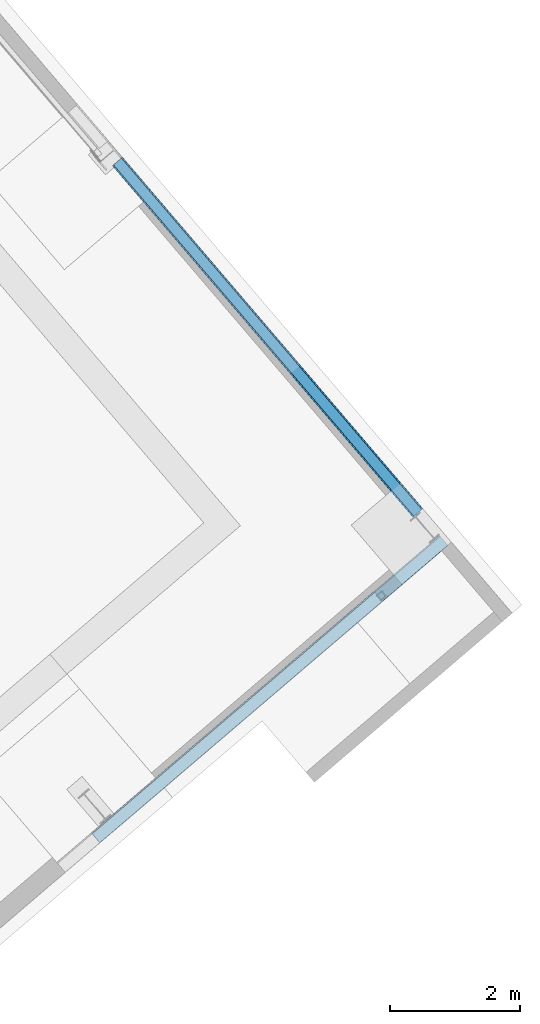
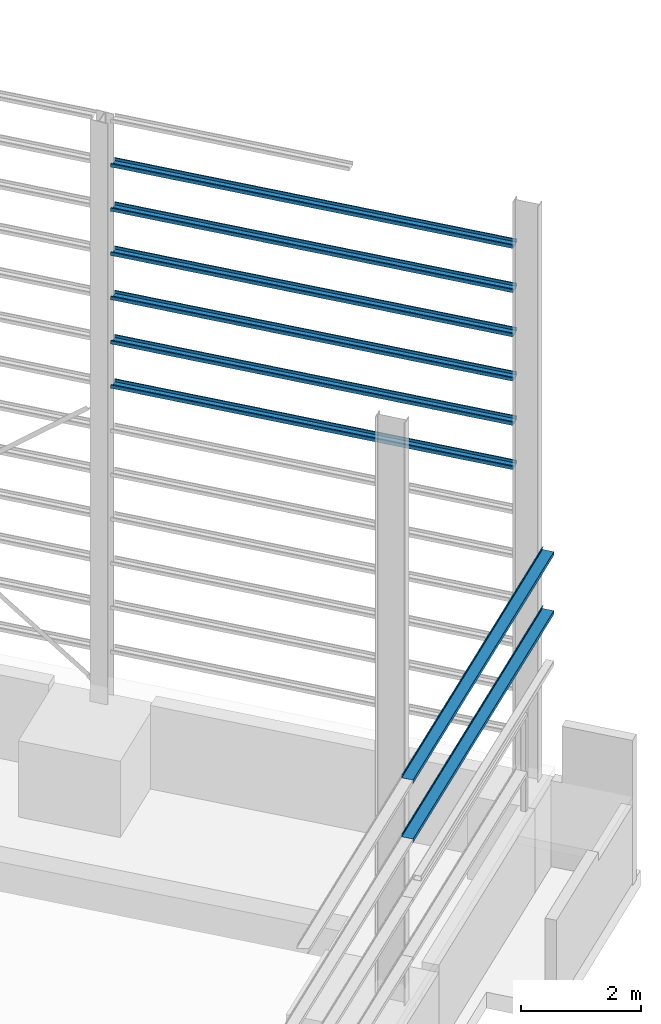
# One storey, part 24 of 41: 6 beams, 2 members, 1 element without a shape of its own.
"""IFC2X3 building model written with IfcOpenShell, lengths in millimetres."""

from ifc_helpers import new_model, entity, si_unit, converted_unit, derived_unit, direction, frame, frame_2d, origin, place, context, subcontext, project, spatial, polyline, circle_curve, parameter, trimmed, segment, composite_curve, outline, extrude, source, transform, mapped, material, type_object, type_shapes, element, aggregate, save


model = new_model("IFC2X3")

# Units and contexts
model_context = context("Model", 3, precision=0.01, world=origin(), true_north=direction((6.123031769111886e-17, 1.0)))
body_context = subcontext(model_context, "Body", "Model", "MODEL_VIEW")
ifc_project = project(units=[si_unit("LENGTHUNIT", "METRE", prefix="MILLI"), si_unit("AREAUNIT", "SQUARE_METRE"), si_unit("VOLUMEUNIT", "CUBIC_METRE"), converted_unit("PLANEANGLEUNIT", "DEGREE", entity("IfcRatioMeasure", 0.017453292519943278), si_unit("PLANEANGLEUNIT", "RADIAN"), dimensions=[0, 0, 0, 0, 0, 0, 0]), si_unit("MASSUNIT", "GRAM", prefix="KILO"), derived_unit("MASSDENSITYUNIT", [(si_unit("MASSUNIT", "GRAM", prefix="KILO"), 1), (si_unit("LENGTHUNIT", "METRE"), -3)]), derived_unit("MOMENTOFINERTIAUNIT", [(si_unit("LENGTHUNIT", "METRE"), 4)]), si_unit("TIMEUNIT", "SECOND"), si_unit("FREQUENCYUNIT", "HERTZ"), si_unit("THERMODYNAMICTEMPERATUREUNIT", "DEGREE_CELSIUS"), derived_unit("THERMALTRANSMITTANCEUNIT", [(si_unit("MASSUNIT", "GRAM", prefix="KILO"), 1), (si_unit("THERMODYNAMICTEMPERATUREUNIT", "KELVIN"), -1), (si_unit("TIMEUNIT", "SECOND"), -3)]), derived_unit("VOLUMETRICFLOWRATEUNIT", [(si_unit("LENGTHUNIT", "METRE"), 3), (si_unit("TIMEUNIT", "SECOND"), -1)]), derived_unit("MASSFLOWRATEUNIT", [(si_unit("MASSUNIT", "GRAM", prefix="KILO"), 1), (si_unit("TIMEUNIT", "SECOND"), -1)]), derived_unit("ROTATIONALFREQUENCYUNIT", [(si_unit("TIMEUNIT", "SECOND"), -1)]), si_unit("ELECTRICCURRENTUNIT", "AMPERE"), si_unit("ELECTRICVOLTAGEUNIT", "VOLT"), si_unit("POWERUNIT", "WATT"), si_unit("FORCEUNIT", "NEWTON", prefix="KILO"), si_unit("ILLUMINANCEUNIT", "LUX"), si_unit("LUMINOUSFLUXUNIT", "LUMEN"), si_unit("LUMINOUSINTENSITYUNIT", "CANDELA"), derived_unit("USERDEFINED", [(si_unit("MASSUNIT", "GRAM", prefix="KILO"), -1), (si_unit("LENGTHUNIT", "METRE"), -2), (si_unit("TIMEUNIT", "SECOND"), 3), (si_unit("LUMINOUSFLUXUNIT", "LUMEN"), 1)]), derived_unit("SOUNDPOWERUNIT", [(si_unit("MASSUNIT", "GRAM", prefix="KILO"), 1), (si_unit("LENGTHUNIT", "METRE"), 2), (si_unit("TIMEUNIT", "SECOND"), -3)]), derived_unit("LINEARVELOCITYUNIT", [(si_unit("LENGTHUNIT", "METRE"), 1), (si_unit("TIMEUNIT", "SECOND"), -1)]), si_unit("PRESSUREUNIT", "PASCAL"), derived_unit("USERDEFINED", [(si_unit("LENGTHUNIT", "METRE"), -2), (si_unit("MASSUNIT", "GRAM", prefix="KILO"), 1), (si_unit("TIMEUNIT", "SECOND"), -2)]), derived_unit("LINEARFORCEUNIT", [(si_unit("MASSUNIT", "GRAM", prefix="KILO"), 1), (si_unit("LENGTHUNIT", "METRE"), 1), (si_unit("TIMEUNIT", "SECOND"), -2), (si_unit("LENGTHUNIT", "METRE"), -1)]), derived_unit("PLANARFORCEUNIT", [(si_unit("MASSUNIT", "GRAM", prefix="KILO"), 1), (si_unit("LENGTHUNIT", "METRE"), 1), (si_unit("TIMEUNIT", "SECOND"), -2), (si_unit("LENGTHUNIT", "METRE"), -2)])], contexts=[model_context])

# Site, building, storey
site_placement = place(None, frame((962.4174930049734, -6014.433753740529, 0.0), z_axis=(0.0, 0.0, 1.0), x_axis=(0.7601792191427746, 0.649713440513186, 0.0)))
site = spatial("IfcSite", under=ifc_project, at=site_placement, Name="Default", CompositionType="ELEMENT")
building_placement = place(site_placement, origin())
building = spatial("IfcBuilding", under=site, at=building_placement, CompositionType="ELEMENT")
storey_placement = place(building_placement, origin())
storey = spatial("IfcBuildingStorey", under=building, at=storey_placement, Name="Datum", CompositionType="ELEMENT", Elevation=0.0)

# Assembly, beams
assembly_placement = place(building_placement, origin())
assembly = element("IfcElementAssembly", 1, at=assembly_placement, inside=storey, Name="Structural Beam System:Structural Beam System 1", ObjectType="Structural Beam System:Structural Beam System 1", AssemblyPlace="NOTDEFINED", PredefinedType="BEAM_GRID")
ifc_material_1 = material(Name="Metal - Light Gauge")
beam_type = type_object("IfcBeamType", Name="ADSK_AUS_Light Gauge-Joists:C20015", PredefinedType="NOTDEFINED")
beam_1_placement = place(building_placement, frame((185748.56020470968, -25672.328082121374, 10513.962485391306), z_axis=(0.0, 0.0, 1.0), x_axis=(0.0, 1.0, 0.0)))
beam_1 = element("IfcBeam", 2, at=beam_1_placement, type_object=beam_type, material=ifc_material_1, Name="ADSK_AUS_Light Gauge-Joists:C20015", ObjectType="ADSK_AUS_Light Gauge-Joists:C20015", context=body_context, shape_type="SweptSolid", body=[
    extrude(outline(composite_curve([segment(polyline([(-25.691849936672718, -101.50000000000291), (39.49184993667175, -101.50000000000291)]), True, "CONTINUOUS"), segment(trimmed(circle_curve(frame_2d((39.49184993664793, -98.8418499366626), x_axis=(0.0, -1.0)), 2.6581500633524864), [parameter(0.0)], [parameter(89.99999999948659)], True, "PARAMETER"), True, "CONTINUOUS"), segment(polyline([(42.15000000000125, -98.8418499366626), (42.15000000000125, 98.84184993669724)]), True, "CONTINUOUS"), segment(trimmed(circle_curve(frame_2d((39.49184993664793, 98.84184993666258), x_axis=(1.0, 0.0)), 2.6581500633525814), [parameter(0.0)], [parameter(89.99999999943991)], True, "PARAMETER"), True, "CONTINUOUS"), segment(polyline([(39.491849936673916, 101.50000000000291), (-25.691849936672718, 101.50000000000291)]), True, "CONTINUOUS"), segment(trimmed(circle_curve(frame_2d((-25.691849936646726, 98.84184993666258), x_axis=(0.0, 1.0)), 2.6581500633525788), [parameter(0.0)], [parameter(89.99999999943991)], True, "PARAMETER"), True, "CONTINUOUS"), segment(polyline([(-28.350000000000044, 98.84184993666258), (-28.350000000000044, 80.0)]), True, "CONTINUOUS"), segment(polyline([(-28.350000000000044, 80.0), (-26.850000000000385, 80.0)]), True, "CONTINUOUS"), segment(polyline([(-26.849999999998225, 80.0), (-26.849999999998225, 98.42934993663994)]), True, "CONTINUOUS"), segment(trimmed(circle_curve(frame_2d((-25.27934993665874, 98.4293499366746), x_axis=(-1.0, 0.0)), 1.5706500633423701), [parameter(270.00000000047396)], [parameter(0.0)], True, "PARAMETER"), False, "CONTINUOUS"), segment(polyline([(-25.27934993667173, 100.0), (39.079349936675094, 100.0)]), True, "CONTINUOUS"), segment(trimmed(circle_curve(frame_2d((39.07934993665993, 98.4293499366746), x_axis=(0.0, 1.0)), 1.5706500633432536), [parameter(270.0000000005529)], [parameter(0.0)], True, "PARAMETER"), False, "CONTINUOUS"), segment(polyline([(40.65000000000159, 98.4293499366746), (40.65000000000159, -98.4293499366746)]), True, "CONTINUOUS"), segment(trimmed(circle_curve(frame_2d((39.07934993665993, -98.4293499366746), x_axis=(1.0, 0.0)), 1.5706500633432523), [parameter(270.0000000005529)], [parameter(0.0)], True, "PARAMETER"), False, "CONTINUOUS"), segment(polyline([(39.079349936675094, -100.0), (-25.27934993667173, -100.0)]), True, "CONTINUOUS"), segment(trimmed(circle_curve(frame_2d((-25.279349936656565, -98.4293499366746), x_axis=(0.0, -1.0)), 1.570650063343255), [parameter(270.0000000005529)], [parameter(0.0)], True, "PARAMETER"), False, "CONTINUOUS"), segment(polyline([(-26.849999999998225, -98.4293499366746), (-26.849999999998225, -80.0)]), True, "CONTINUOUS"), segment(polyline([(-26.849999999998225, -80.0), (-28.349999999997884, -80.0)]), True, "CONTINUOUS"), segment(polyline([(-28.350000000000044, -80.0), (-28.350000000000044, -98.84184993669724)]), True, "CONTINUOUS"), segment(trimmed(circle_curve(frame_2d((-25.6918499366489, -98.8418499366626), x_axis=(-1.0, 0.0)), 2.658150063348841), [parameter(0.0)], [parameter(89.99999999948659)], True, "PARAMETER"), True, "CONTINUOUS")], self_intersect=False)), frame((26.00624999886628, -101.50000000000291, 42.15000000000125), z_axis=(1.0, 0.0, 0.0), x_axis=(0.0, 0.0, -1.0)), (0.0, 0.0, 1.0), 7108.999999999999),
])
beam_2_placement = place(building_placement, frame((185748.56020470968, -25672.328082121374, 9613.962485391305), z_axis=(0.0, 0.0, 1.0), x_axis=(0.0, 1.0, 0.0)))
beam_2 = element("IfcBeam", 3, at=beam_2_placement, type_object=beam_type, material=ifc_material_1, Name="ADSK_AUS_Light Gauge-Joists:C20015", ObjectType="ADSK_AUS_Light Gauge-Joists:C20015", context=body_context, shape_type="SweptSolid", body=[
    extrude(outline(composite_curve([segment(polyline([(-25.691849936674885, -101.50000000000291), (39.49184993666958, -101.50000000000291)]), True, "CONTINUOUS"), segment(trimmed(circle_curve(frame_2d((39.491849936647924, -98.8418499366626), x_axis=(0.0, -1.0)), 2.658150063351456), [parameter(0.0)], [parameter(89.99999999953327)], True, "PARAMETER"), True, "CONTINUOUS"), segment(polyline([(42.14999999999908, -98.8418499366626), (42.149999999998, 98.84184993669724)]), True, "CONTINUOUS"), segment(trimmed(circle_curve(frame_2d((39.491849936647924, 98.84184993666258), x_axis=(1.0, 0.0)), 2.658150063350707), [parameter(0.0)], [parameter(89.99999999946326)], True, "PARAMETER"), True, "CONTINUOUS"), segment(polyline([(39.491849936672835, 101.50000000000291), (-25.691849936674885, 101.50000000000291)]), True, "CONTINUOUS"), segment(trimmed(circle_curve(frame_2d((-25.691849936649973, 98.84184993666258), x_axis=(0.0, 1.0)), 2.658150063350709), [parameter(0.0)], [parameter(89.99999999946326)], True, "PARAMETER"), True, "CONTINUOUS"), segment(polyline([(-28.35000000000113, 98.84184993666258), (-28.35000000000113, 80.0)]), True, "CONTINUOUS"), segment(polyline([(-28.35000000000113, 80.0), (-26.850000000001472, 80.0)]), True, "CONTINUOUS"), segment(polyline([(-26.850000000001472, 80.0), (-26.850000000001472, 98.42934993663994)]), True, "CONTINUOUS"), segment(trimmed(circle_curve(frame_2d((-25.279349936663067, 98.4293499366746), x_axis=(-1.0, 0.0)), 1.570650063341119), [parameter(270.00000000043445)], [parameter(0.0)], True, "PARAMETER"), False, "CONTINUOUS"), segment(polyline([(-25.279349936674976, 100.0), (39.079349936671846, 100.0)]), True, "CONTINUOUS"), segment(trimmed(circle_curve(frame_2d((39.07934993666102, 98.4293499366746), x_axis=(0.0, 1.0)), 1.570650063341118), [parameter(270.00000000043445)], [parameter(0.0)], True, "PARAMETER"), False, "CONTINUOUS"), segment(polyline([(40.64999999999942, 98.4293499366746), (40.6500000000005, -98.4293499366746)]), True, "CONTINUOUS"), segment(trimmed(circle_curve(frame_2d((39.07934993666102, -98.4293499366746), x_axis=(1.0, 0.0)), 1.570650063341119), [parameter(270.00000000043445)], [parameter(0.0)], True, "PARAMETER"), False, "CONTINUOUS"), segment(polyline([(39.079349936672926, -100.0), (-25.279349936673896, -100.0)]), True, "CONTINUOUS"), segment(trimmed(circle_curve(frame_2d((-25.279349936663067, -98.4293499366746), x_axis=(0.0, -1.0)), 1.570650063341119), [parameter(270.00000000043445)], [parameter(0.0)], True, "PARAMETER"), False, "CONTINUOUS"), segment(polyline([(-26.850000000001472, -98.4293499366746), (-26.850000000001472, -80.0)]), True, "CONTINUOUS"), segment(polyline([(-26.850000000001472, -80.0), (-28.35000000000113, -80.0)]), True, "CONTINUOUS"), segment(polyline([(-28.35000000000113, -80.0), (-28.35000000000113, -98.84184993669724)]), True, "CONTINUOUS"), segment(trimmed(circle_curve(frame_2d((-25.691849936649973, -98.8418499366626), x_axis=(-1.0, 0.0)), 2.6581500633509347), [parameter(0.0)], [parameter(89.99999999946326)], True, "PARAMETER"), True, "CONTINUOUS")], self_intersect=False)), frame((26.00624999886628, -101.50000000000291, 42.14999999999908), z_axis=(1.0, 0.0, 0.0), x_axis=(0.0, 0.0, -1.0)), (0.0, 0.0, 1.0), 7108.999999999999),
])
beam_3_placement = place(building_placement, frame((185748.56020470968, -25672.328082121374, 8713.962485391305), z_axis=(0.0, 0.0, 1.0), x_axis=(0.0, 1.0, 0.0)))
beam_3 = element("IfcBeam", 4, at=beam_3_placement, type_object=beam_type, material=ifc_material_1, Name="ADSK_AUS_Light Gauge-Joists:C20015", ObjectType="ADSK_AUS_Light Gauge-Joists:C20015", context=body_context, shape_type="SweptSolid", body=[
    extrude(outline(composite_curve([segment(polyline([(-25.691849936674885, -101.50000000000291), (39.49184993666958, -101.50000000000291)]), True, "CONTINUOUS"), segment(trimmed(circle_curve(frame_2d((39.491849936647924, -98.8418499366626), x_axis=(0.0, -1.0)), 2.658150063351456), [parameter(0.0)], [parameter(89.99999999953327)], True, "PARAMETER"), True, "CONTINUOUS"), segment(polyline([(42.14999999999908, -98.8418499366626), (42.149999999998, 98.84184993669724)]), True, "CONTINUOUS"), segment(trimmed(circle_curve(frame_2d((39.491849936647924, 98.84184993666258), x_axis=(1.0, 0.0)), 2.658150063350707), [parameter(0.0)], [parameter(89.99999999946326)], True, "PARAMETER"), True, "CONTINUOUS"), segment(polyline([(39.491849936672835, 101.50000000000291), (-25.691849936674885, 101.50000000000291)]), True, "CONTINUOUS"), segment(trimmed(circle_curve(frame_2d((-25.691849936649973, 98.84184993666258), x_axis=(0.0, 1.0)), 2.658150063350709), [parameter(0.0)], [parameter(89.99999999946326)], True, "PARAMETER"), True, "CONTINUOUS"), segment(polyline([(-28.35000000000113, 98.84184993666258), (-28.35000000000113, 80.0)]), True, "CONTINUOUS"), segment(polyline([(-28.35000000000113, 80.0), (-26.850000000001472, 80.0)]), True, "CONTINUOUS"), segment(polyline([(-26.850000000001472, 80.0), (-26.850000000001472, 98.42934993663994)]), True, "CONTINUOUS"), segment(trimmed(circle_curve(frame_2d((-25.279349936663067, 98.4293499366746), x_axis=(-1.0, 0.0)), 1.570650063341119), [parameter(270.00000000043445)], [parameter(0.0)], True, "PARAMETER"), False, "CONTINUOUS"), segment(polyline([(-25.279349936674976, 100.0), (39.079349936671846, 100.0)]), True, "CONTINUOUS"), segment(trimmed(circle_curve(frame_2d((39.07934993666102, 98.4293499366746), x_axis=(0.0, 1.0)), 1.570650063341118), [parameter(270.00000000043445)], [parameter(0.0)], True, "PARAMETER"), False, "CONTINUOUS"), segment(polyline([(40.64999999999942, 98.4293499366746), (40.6500000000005, -98.4293499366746)]), True, "CONTINUOUS"), segment(trimmed(circle_curve(frame_2d((39.07934993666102, -98.4293499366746), x_axis=(1.0, 0.0)), 1.570650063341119), [parameter(270.00000000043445)], [parameter(0.0)], True, "PARAMETER"), False, "CONTINUOUS"), segment(polyline([(39.079349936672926, -100.0), (-25.279349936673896, -100.0)]), True, "CONTINUOUS"), segment(trimmed(circle_curve(frame_2d((-25.279349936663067, -98.4293499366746), x_axis=(0.0, -1.0)), 1.570650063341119), [parameter(270.00000000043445)], [parameter(0.0)], True, "PARAMETER"), False, "CONTINUOUS"), segment(polyline([(-26.850000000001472, -98.4293499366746), (-26.850000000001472, -80.0)]), True, "CONTINUOUS"), segment(polyline([(-26.850000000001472, -80.0), (-28.35000000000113, -80.0)]), True, "CONTINUOUS"), segment(polyline([(-28.35000000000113, -80.0), (-28.35000000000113, -98.84184993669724)]), True, "CONTINUOUS"), segment(trimmed(circle_curve(frame_2d((-25.691849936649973, -98.8418499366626), x_axis=(-1.0, 0.0)), 2.6581500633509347), [parameter(0.0)], [parameter(89.99999999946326)], True, "PARAMETER"), True, "CONTINUOUS")], self_intersect=False)), frame((26.00624999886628, -101.50000000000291, 42.14999999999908), z_axis=(1.0, 0.0, 0.0), x_axis=(0.0, 0.0, -1.0)), (0.0, 0.0, 1.0), 7108.999999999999),
])
beam_4_placement = place(building_placement, frame((185748.56020470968, -25672.328082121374, 7813.962485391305), z_axis=(0.0, 0.0, 1.0), x_axis=(0.0, 1.0, 0.0)))
beam_4 = element("IfcBeam", 5, at=beam_4_placement, type_object=beam_type, material=ifc_material_1, Name="ADSK_AUS_Light Gauge-Joists:C20015", ObjectType="ADSK_AUS_Light Gauge-Joists:C20015", context=body_context, shape_type="SweptSolid", body=[
    extrude(outline(composite_curve([segment(polyline([(-25.691849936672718, -101.50000000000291), (39.49184993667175, -101.50000000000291)]), True, "CONTINUOUS"), segment(trimmed(circle_curve(frame_2d((39.49184993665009, -98.8418499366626), x_axis=(0.0, -1.0)), 2.658150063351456), [parameter(0.0)], [parameter(89.99999999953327)], True, "PARAMETER"), True, "CONTINUOUS"), segment(polyline([(42.15000000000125, -98.8418499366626), (42.15000000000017, 98.84184993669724)]), True, "CONTINUOUS"), segment(trimmed(circle_curve(frame_2d((39.49184993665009, 98.84184993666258), x_axis=(1.0, 0.0)), 2.658150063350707), [parameter(0.0)], [parameter(89.99999999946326)], True, "PARAMETER"), True, "CONTINUOUS"), segment(polyline([(39.491849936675, 101.50000000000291), (-25.691849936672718, 101.50000000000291)]), True, "CONTINUOUS"), segment(trimmed(circle_curve(frame_2d((-25.691849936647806, 98.84184993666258), x_axis=(0.0, 1.0)), 2.658150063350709), [parameter(0.0)], [parameter(89.99999999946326)], True, "PARAMETER"), True, "CONTINUOUS"), segment(polyline([(-28.349999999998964, 98.84184993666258), (-28.349999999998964, 80.0)]), True, "CONTINUOUS"), segment(polyline([(-28.349999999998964, 80.0), (-26.849999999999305, 80.0)]), True, "CONTINUOUS"), segment(polyline([(-26.849999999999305, 80.0), (-26.849999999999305, 98.42934993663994)]), True, "CONTINUOUS"), segment(trimmed(circle_curve(frame_2d((-25.2793499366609, 98.4293499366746), x_axis=(-1.0, 0.0)), 1.570650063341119), [parameter(270.00000000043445)], [parameter(0.0)], True, "PARAMETER"), False, "CONTINUOUS"), segment(polyline([(-25.27934993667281, 100.0), (39.079349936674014, 100.0)]), True, "CONTINUOUS"), segment(trimmed(circle_curve(frame_2d((39.079349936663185, 98.4293499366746), x_axis=(0.0, 1.0)), 1.570650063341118), [parameter(270.00000000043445)], [parameter(0.0)], True, "PARAMETER"), False, "CONTINUOUS"), segment(polyline([(40.65000000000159, 98.4293499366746), (40.65000000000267, -98.4293499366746)]), True, "CONTINUOUS"), segment(trimmed(circle_curve(frame_2d((39.079349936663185, -98.4293499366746), x_axis=(1.0, 0.0)), 1.570650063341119), [parameter(270.00000000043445)], [parameter(0.0)], True, "PARAMETER"), False, "CONTINUOUS"), segment(polyline([(39.079349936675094, -100.0), (-25.27934993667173, -100.0)]), True, "CONTINUOUS"), segment(trimmed(circle_curve(frame_2d((-25.2793499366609, -98.4293499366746), x_axis=(0.0, -1.0)), 1.570650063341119), [parameter(270.00000000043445)], [parameter(0.0)], True, "PARAMETER"), False, "CONTINUOUS"), segment(polyline([(-26.849999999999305, -98.4293499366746), (-26.849999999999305, -80.0)]), True, "CONTINUOUS"), segment(polyline([(-26.849999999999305, -80.0), (-28.349999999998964, -80.0)]), True, "CONTINUOUS"), segment(polyline([(-28.349999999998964, -80.0), (-28.349999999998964, -98.84184993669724)]), True, "CONTINUOUS"), segment(trimmed(circle_curve(frame_2d((-25.691849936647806, -98.8418499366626), x_axis=(-1.0, 0.0)), 2.6581500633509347), [parameter(0.0)], [parameter(89.99999999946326)], True, "PARAMETER"), True, "CONTINUOUS")], self_intersect=False)), frame((26.00624999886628, -101.50000000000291, 42.15000000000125), z_axis=(1.0, 0.0, 0.0), x_axis=(0.0, 0.0, -1.0)), (0.0, 0.0, 1.0), 7108.999999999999),
])
beam_5_placement = place(building_placement, frame((185748.56020470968, -25672.328082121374, 6913.962485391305), z_axis=(0.0, 0.0, 1.0), x_axis=(0.0, 1.0, 0.0)))
beam_5 = element("IfcBeam", 6, at=beam_5_placement, type_object=beam_type, material=ifc_material_1, Name="ADSK_AUS_Light Gauge-Joists:C20015", ObjectType="ADSK_AUS_Light Gauge-Joists:C20015", context=body_context, shape_type="SweptSolid", body=[
    extrude(outline(composite_curve([segment(polyline([(-25.691849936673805, -101.50000000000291), (39.49184993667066, -101.50000000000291)]), True, "CONTINUOUS"), segment(trimmed(circle_curve(frame_2d((39.491849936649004, -98.8418499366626), x_axis=(0.0, -1.0)), 2.658150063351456), [parameter(0.0)], [parameter(89.99999999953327)], True, "PARAMETER"), True, "CONTINUOUS"), segment(polyline([(42.15000000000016, -98.8418499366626), (42.14999999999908, 98.84184993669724)]), True, "CONTINUOUS"), segment(trimmed(circle_curve(frame_2d((39.491849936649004, 98.84184993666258), x_axis=(1.0, 0.0)), 2.658150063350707), [parameter(0.0)], [parameter(89.99999999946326)], True, "PARAMETER"), True, "CONTINUOUS"), segment(polyline([(39.491849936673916, 101.50000000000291), (-25.691849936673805, 101.50000000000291)]), True, "CONTINUOUS"), segment(trimmed(circle_curve(frame_2d((-25.691849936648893, 98.84184993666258), x_axis=(0.0, 1.0)), 2.658150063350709), [parameter(0.0)], [parameter(89.99999999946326)], True, "PARAMETER"), True, "CONTINUOUS"), segment(polyline([(-28.35000000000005, 98.84184993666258), (-28.35000000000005, 80.0)]), True, "CONTINUOUS"), segment(polyline([(-28.35000000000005, 80.0), (-26.850000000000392, 80.0)]), True, "CONTINUOUS"), segment(polyline([(-26.850000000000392, 80.0), (-26.850000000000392, 98.42934993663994)]), True, "CONTINUOUS"), segment(trimmed(circle_curve(frame_2d((-25.279349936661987, 98.4293499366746), x_axis=(-1.0, 0.0)), 1.570650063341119), [parameter(270.00000000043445)], [parameter(0.0)], True, "PARAMETER"), False, "CONTINUOUS"), segment(polyline([(-25.279349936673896, 100.0), (39.079349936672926, 100.0)]), True, "CONTINUOUS"), segment(trimmed(circle_curve(frame_2d((39.0793499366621, 98.4293499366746), x_axis=(0.0, 1.0)), 1.570650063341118), [parameter(270.00000000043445)], [parameter(0.0)], True, "PARAMETER"), False, "CONTINUOUS"), segment(polyline([(40.6500000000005, 98.4293499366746), (40.65000000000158, -98.4293499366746)]), True, "CONTINUOUS"), segment(trimmed(circle_curve(frame_2d((39.0793499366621, -98.4293499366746), x_axis=(1.0, 0.0)), 1.570650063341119), [parameter(270.00000000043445)], [parameter(0.0)], True, "PARAMETER"), False, "CONTINUOUS"), segment(polyline([(39.07934993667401, -100.0), (-25.279349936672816, -100.0)]), True, "CONTINUOUS"), segment(trimmed(circle_curve(frame_2d((-25.279349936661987, -98.4293499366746), x_axis=(0.0, -1.0)), 1.570650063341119), [parameter(270.00000000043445)], [parameter(0.0)], True, "PARAMETER"), False, "CONTINUOUS"), segment(polyline([(-26.850000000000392, -98.4293499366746), (-26.850000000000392, -80.0)]), True, "CONTINUOUS"), segment(polyline([(-26.850000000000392, -80.0), (-28.35000000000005, -80.0)]), True, "CONTINUOUS"), segment(polyline([(-28.35000000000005, -80.0), (-28.35000000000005, -98.84184993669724)]), True, "CONTINUOUS"), segment(trimmed(circle_curve(frame_2d((-25.691849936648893, -98.8418499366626), x_axis=(-1.0, 0.0)), 2.6581500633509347), [parameter(0.0)], [parameter(89.99999999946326)], True, "PARAMETER"), True, "CONTINUOUS")], self_intersect=False)), frame((26.00624999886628, -101.50000000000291, 42.15000000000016), z_axis=(1.0, 0.0, 0.0), x_axis=(0.0, 0.0, -1.0)), (0.0, 0.0, 1.0), 7108.999999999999),
])
beam_6_placement = place(building_placement, frame((185748.56020470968, -25672.328082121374, 6013.962485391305), z_axis=(0.0, 0.0, 1.0), x_axis=(0.0, 1.0, 0.0)))
beam_6 = element("IfcBeam", 7, at=beam_6_placement, type_object=beam_type, material=ifc_material_1, Name="ADSK_AUS_Light Gauge-Joists:C20015", ObjectType="ADSK_AUS_Light Gauge-Joists:C20015", context=body_context, shape_type="SweptSolid", body=[
    extrude(outline(composite_curve([segment(polyline([(-25.691849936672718, -101.50000000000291), (39.49184993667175, -101.50000000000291)]), True, "CONTINUOUS"), segment(trimmed(circle_curve(frame_2d((39.49184993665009, -98.8418499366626), x_axis=(0.0, -1.0)), 2.658150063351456), [parameter(0.0)], [parameter(89.99999999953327)], True, "PARAMETER"), True, "CONTINUOUS"), segment(polyline([(42.15000000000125, -98.8418499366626), (42.15000000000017, 98.84184993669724)]), True, "CONTINUOUS"), segment(trimmed(circle_curve(frame_2d((39.49184993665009, 98.84184993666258), x_axis=(1.0, 0.0)), 2.658150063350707), [parameter(0.0)], [parameter(89.99999999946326)], True, "PARAMETER"), True, "CONTINUOUS"), segment(polyline([(39.491849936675, 101.50000000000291), (-25.691849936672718, 101.50000000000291)]), True, "CONTINUOUS"), segment(trimmed(circle_curve(frame_2d((-25.691849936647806, 98.84184993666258), x_axis=(0.0, 1.0)), 2.658150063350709), [parameter(0.0)], [parameter(89.99999999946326)], True, "PARAMETER"), True, "CONTINUOUS"), segment(polyline([(-28.349999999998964, 98.84184993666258), (-28.349999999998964, 80.0)]), True, "CONTINUOUS"), segment(polyline([(-28.349999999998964, 80.0), (-26.849999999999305, 80.0)]), True, "CONTINUOUS"), segment(polyline([(-26.849999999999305, 80.0), (-26.849999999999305, 98.42934993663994)]), True, "CONTINUOUS"), segment(trimmed(circle_curve(frame_2d((-25.2793499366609, 98.4293499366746), x_axis=(-1.0, 0.0)), 1.570650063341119), [parameter(270.00000000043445)], [parameter(0.0)], True, "PARAMETER"), False, "CONTINUOUS"), segment(polyline([(-25.27934993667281, 100.0), (39.079349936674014, 100.0)]), True, "CONTINUOUS"), segment(trimmed(circle_curve(frame_2d((39.079349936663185, 98.4293499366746), x_axis=(0.0, 1.0)), 1.570650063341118), [parameter(270.00000000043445)], [parameter(0.0)], True, "PARAMETER"), False, "CONTINUOUS"), segment(polyline([(40.65000000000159, 98.4293499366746), (40.65000000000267, -98.4293499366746)]), True, "CONTINUOUS"), segment(trimmed(circle_curve(frame_2d((39.079349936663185, -98.4293499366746), x_axis=(1.0, 0.0)), 1.570650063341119), [parameter(270.00000000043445)], [parameter(0.0)], True, "PARAMETER"), False, "CONTINUOUS"), segment(polyline([(39.079349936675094, -100.0), (-25.27934993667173, -100.0)]), True, "CONTINUOUS"), segment(trimmed(circle_curve(frame_2d((-25.2793499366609, -98.4293499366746), x_axis=(0.0, -1.0)), 1.570650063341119), [parameter(270.00000000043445)], [parameter(0.0)], True, "PARAMETER"), False, "CONTINUOUS"), segment(polyline([(-26.849999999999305, -98.4293499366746), (-26.849999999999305, -80.0)]), True, "CONTINUOUS"), segment(polyline([(-26.849999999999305, -80.0), (-28.349999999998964, -80.0)]), True, "CONTINUOUS"), segment(polyline([(-28.349999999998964, -80.0), (-28.349999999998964, -98.84184993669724)]), True, "CONTINUOUS"), segment(trimmed(circle_curve(frame_2d((-25.691849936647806, -98.8418499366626), x_axis=(-1.0, 0.0)), 2.6581500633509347), [parameter(0.0)], [parameter(89.99999999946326)], True, "PARAMETER"), True, "CONTINUOUS")], self_intersect=False)), frame((26.00624999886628, -101.50000000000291, 42.15000000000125), z_axis=(1.0, 0.0, 0.0), x_axis=(0.0, 0.0, -1.0)), (0.0, 0.0, 1.0), 7108.999999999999),
])
aggregate(assembly, [beam_1, beam_2, beam_3, beam_4, beam_5, beam_6])

# Members
ifc_material_2 = material(Name="Metal - Steel - 345 MPa")
member_type = type_object("IfcMemberType", Name="ADSK_AU_Light Gauge-Zeds:Z20015", PredefinedType="BRACE", material=ifc_material_2)
shared_shape = source(origin(), body_context, "Body", "SweptSolid", [
    extrude(outline(composite_curve([segment(polyline([(-98.0, -67.50000000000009), (-81.49999999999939, -67.50000000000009)]), True, "CONTINUOUS"), segment(polyline([(-81.49999999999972, -67.50000000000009), (-81.49999999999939, -66.0)]), True, "CONTINUOUS"), segment(polyline([(-81.49999999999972, -66.0), (-98.0, -66.0)]), True, "CONTINUOUS"), segment(trimmed(circle_curve(frame_2d((-98.0, -64.0), x_axis=(0.0, -1.0)), 2.0000000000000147), [parameter(270.00000000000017)], [parameter(0.0)], True, "PARAMETER"), False, "CONTINUOUS"), segment(polyline([(-100.0, -64.0), (-100.0, -6.500000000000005)]), True, "CONTINUOUS"), segment(trimmed(circle_curve(frame_2d((-98.0, -6.500000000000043), x_axis=(-1.0, 0.0)), 2.000000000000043), [parameter(270.000000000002)], [parameter(0.0)], True, "PARAMETER"), False, "CONTINUOUS"), segment(polyline([(-98.0, -4.499999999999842), (98.0, -4.499999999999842)]), True, "CONTINUOUS"), segment(trimmed(circle_curve(frame_2d((98.0, -1.0), x_axis=(0.0, -1.0)), 3.500000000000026), [parameter(0.0)], [parameter(89.99999999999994)], True, "PARAMETER"), True, "CONTINUOUS"), segment(polyline([(101.5, -1.0), (101.50000000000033, 69.0)]), True, "CONTINUOUS"), segment(trimmed(circle_curve(frame_2d((98.0, 69.0), x_axis=(1.0, 0.0)), 3.4999999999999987), [parameter(0.0)], [parameter(90.00000000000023)], True, "PARAMETER"), True, "CONTINUOUS"), segment(polyline([(98.0, 72.49999999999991), (81.50000000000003, 72.49999999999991)]), True, "CONTINUOUS"), segment(polyline([(81.49999999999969, 72.49999999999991), (81.50000000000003, 71.0)]), True, "CONTINUOUS"), segment(polyline([(81.49999999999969, 71.0), (98.0, 71.0)]), True, "CONTINUOUS"), segment(trimmed(circle_curve(frame_2d((98.0, 69.0), x_axis=(0.0, 1.0)), 2.000000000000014), [parameter(270.00000000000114)], [parameter(0.0)], True, "PARAMETER"), False, "CONTINUOUS"), segment(polyline([(100.0, 69.0), (100.0, -1.0)]), True, "CONTINUOUS"), segment(trimmed(circle_curve(frame_2d((98.0, -1.0), x_axis=(1.0, 0.0)), 1.9999999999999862), [parameter(269.99999999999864)], [parameter(0.0)], True, "PARAMETER"), False, "CONTINUOUS"), segment(polyline([(98.0, -3.0), (-98.0, -3.0)]), True, "CONTINUOUS"), segment(trimmed(circle_curve(frame_2d((-98.0, -6.499999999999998), x_axis=(0.0, 1.0)), 3.5000000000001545), [parameter(0.0)], [parameter(89.99999999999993)], True, "PARAMETER"), True, "CONTINUOUS"), segment(polyline([(-101.50000000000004, -6.50000000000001), (-101.4999999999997, -64.0)]), True, "CONTINUOUS"), segment(trimmed(circle_curve(frame_2d((-98.0, -64.0), x_axis=(-1.0, 0.0)), 3.500000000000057), [parameter(0.0)], [parameter(89.99999999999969)], True, "PARAMETER"), True, "CONTINUOUS")], self_intersect=False)), frame((-3654.4999999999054, 4.499999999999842, 0.0), z_axis=(1.0, 0.0, 0.0), x_axis=(0.0, 0.0, -1.0)), (0.0, 0.0, 1.0), 7040.299999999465),
])
type_shapes(member_type, [shared_shape])
for number, where, z_axis, x_axis, name in (
    (8, (182493.46020471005, -26224.928082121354, 3222.899999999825), (0.0, 1.0, 0.0), (1.0, 0.0, 0.0), "ADSK_AU_Light Gauge-Zeds:Z20015"),
    (9, (182493.46020471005, -26224.928082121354, 4422.899999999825), (0.0, 1.0, 0.0), (1.0, 0.0, 0.0), "ADSK_AU_Light Gauge-Zeds:Z20015"),
):
    element("IfcMember", number, at=place(storey_placement, frame(where, z_axis=z_axis, x_axis=x_axis)), inside=storey, type_object=member_type, material=ifc_material_2, Name=name, ObjectType="ADSK_AU_Light Gauge-Zeds:Z20015", context=body_context, shape_type="MappedRepresentation", body=[
        mapped(shared_shape, transform((0.0, 0.0, 0.0), scale=1.0)),
    ])

save(model, "model.ifc")
